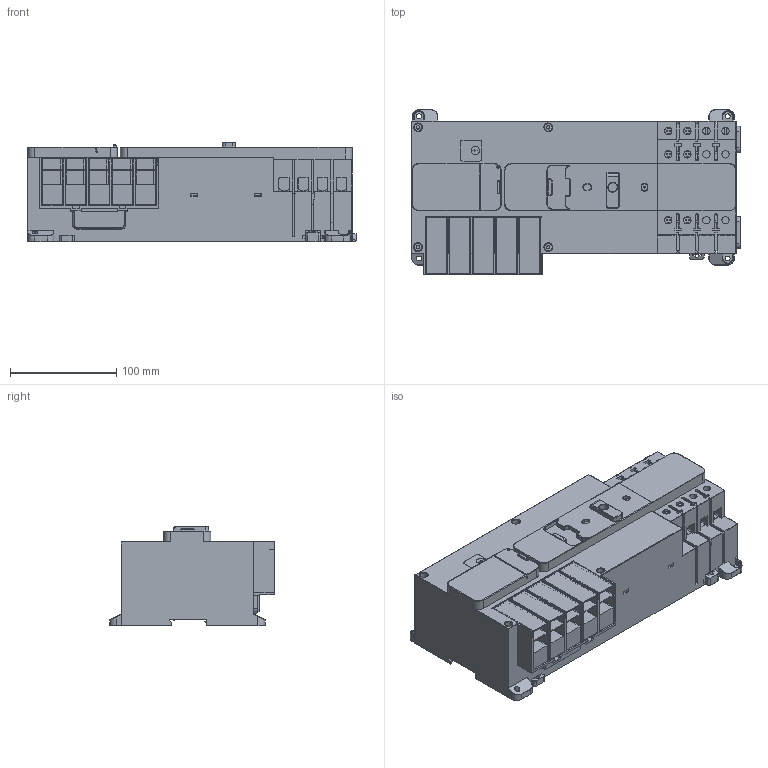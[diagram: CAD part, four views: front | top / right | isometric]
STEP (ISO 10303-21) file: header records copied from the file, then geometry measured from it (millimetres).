
FILE_DESCRIPTION((''),'2;1');
FILE_NAME('R1_IEC_2P_LCD_3D-SIMPLIFIED_ASM','2021-12-08T15:27:04',('SESA530330'),('Schneider-Electric'),'CREO PARAMETRIC BY PTC INC, 2019471','CREO PARAMETRIC BY PTC INC, 2019471','');
FILE_SCHEMA(('CONFIG_CONTROL_DESIGN'));
Products named in the file (3): R1_IEC_2P_LCD_3D-SIMPLIFIED_3; ASM0001_ASM_1_ASM; R1_IEC_2P_LCD_3D-SIMPLIFIED_ASM
Assembly tree (2 placements, depth 3):
  R1_IEC_2P_LCD_3D-SIMPLIFIED_ASM
    ASM0001_ASM_1_ASM
      R1_IEC_2P_LCD_3D-SIMPLIFIED_3
Bounding box: 310 x 155.3 x 94.25 mm (x, y, z)
Volume: 2965186.2 mm3; surface area: 291562.2 mm2
Topology: 1 solids, 2 shells, 1895 faces, 5205 edges, 3413 vertices
Faces by surface type: plane 1214, cylinder 477, extrusion 86, torus 50, sphere 26, bspline 22, cone 20
Entity records: 62904 total; most frequent: CARTESIAN_POINT 14583, ORIENTED_EDGE 10354, DIRECTION 9450, EDGE_CURVE 5177, VECTOR 3798, LINE 3712, VERTEX_POINT 3413, AXIS2_PLACEMENT_3D 2826
